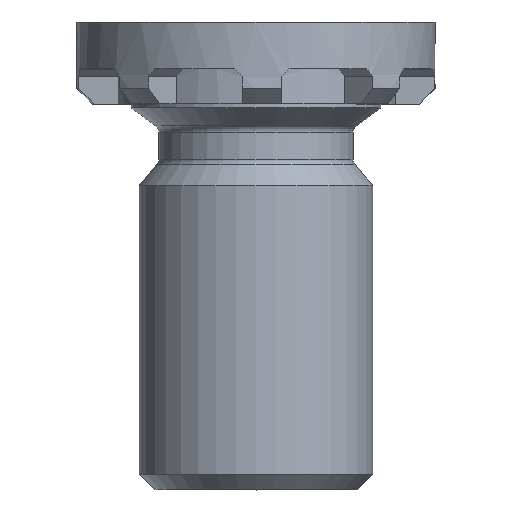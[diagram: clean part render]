
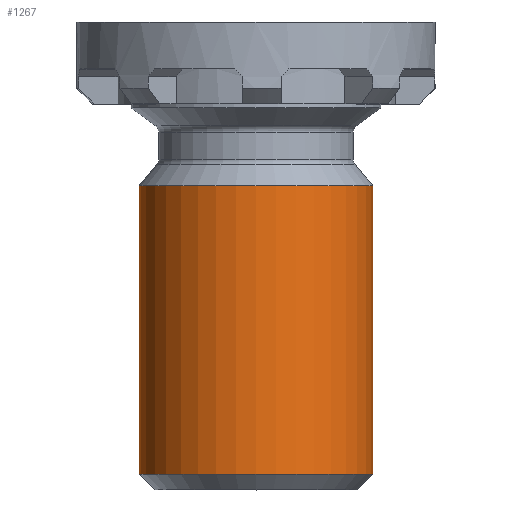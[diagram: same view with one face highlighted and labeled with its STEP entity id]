
A CAD part, top view. The second image highlights one B-rep face of the part: STEP entity #1267.
In plain terms, the highlighted cylindrical face has radius 1.5 mm (diameter 3 mm), a full revolution.
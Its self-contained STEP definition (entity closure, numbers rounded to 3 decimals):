
#38=CYLINDRICAL_SURFACE('',#1435,1.5);
#100=CIRCLE('',#1432,1.5);
#101=CIRCLE('',#1433,1.5);
#102=CIRCLE('',#1436,1.5);
#174=FACE_OUTER_BOUND('',#242,.T.);
#242=EDGE_LOOP('',(#1094,#1095,#1096,#1097,#1098));
#334=LINE('',#2248,#421);
#421=VECTOR('',#1815,1.5);
#573=VERTEX_POINT('',#2240);
#574=VERTEX_POINT('',#2242);
#575=VERTEX_POINT('',#2247);
#759=EDGE_CURVE('',#573,#574,#100,.T.);
#760=EDGE_CURVE('',#574,#573,#101,.T.);
#761=EDGE_CURVE('',#574,#575,#334,.T.);
#762=EDGE_CURVE('',#575,#575,#102,.T.);
#1094=ORIENTED_EDGE('',*,*,#759,.F.);
#1095=ORIENTED_EDGE('',*,*,#760,.F.);
#1096=ORIENTED_EDGE('',*,*,#761,.T.);
#1097=ORIENTED_EDGE('',*,*,#762,.T.);
#1098=ORIENTED_EDGE('',*,*,#761,.F.);
#1267=ADVANCED_FACE('',(#174),#38,.T.);
#1432=AXIS2_PLACEMENT_3D('',#2243,#1807,#1808);
#1433=AXIS2_PLACEMENT_3D('',#2244,#1809,#1810);
#1435=AXIS2_PLACEMENT_3D('',#2246,#1813,#1814);
#1436=AXIS2_PLACEMENT_3D('',#2249,#1816,#1817);
#1807=DIRECTION('center_axis',(0.,-1.,0.));
#1808=DIRECTION('ref_axis',(-1.,0.,0.));
#1809=DIRECTION('center_axis',(0.,-1.,0.));
#1810=DIRECTION('ref_axis',(-1.,0.,0.));
#1813=DIRECTION('center_axis',(0.,-1.,0.));
#1814=DIRECTION('ref_axis',(1.,0.,0.));
#1815=DIRECTION('',(0.,1.,0.));
#1816=DIRECTION('center_axis',(0.,-1.,0.));
#1817=DIRECTION('ref_axis',(1.,0.,0.));
#2240=CARTESIAN_POINT('',(1.5,0.2,0.));
#2242=CARTESIAN_POINT('',(-1.5,0.2,0.));
#2243=CARTESIAN_POINT('Origin',(0.,0.2,0.));
#2244=CARTESIAN_POINT('Origin',(0.,0.2,0.));
#2246=CARTESIAN_POINT('Origin',(0.,1.95,0.));
#2247=CARTESIAN_POINT('',(-1.5,3.9,0.));
#2248=CARTESIAN_POINT('',(-1.5,1.95,0.));
#2249=CARTESIAN_POINT('Origin',(0.,3.9,0.));
